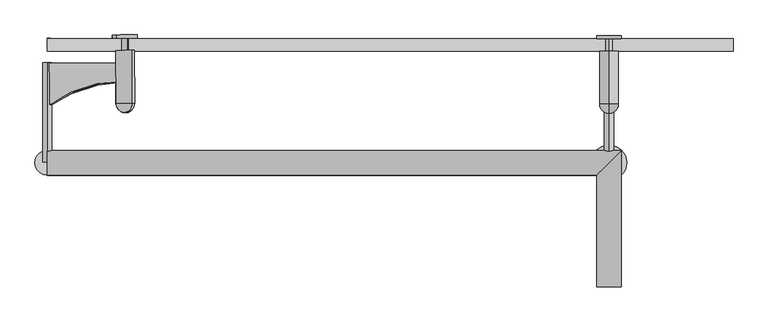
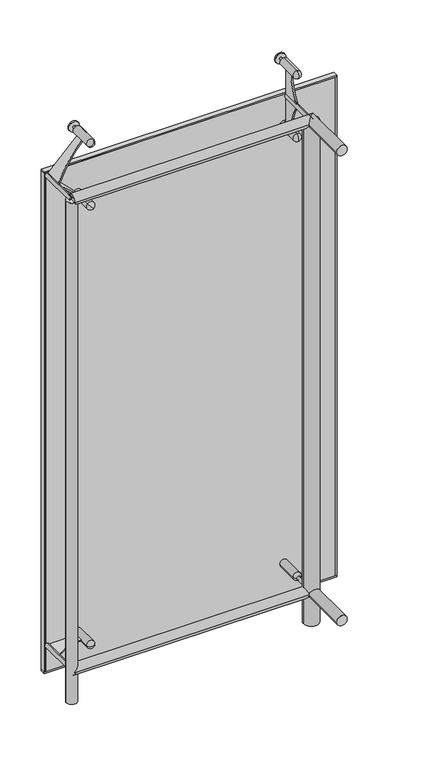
"""IFC4 building model written with IfcOpenShell, lengths in millimetres: plate geometry, FLATNING_TRYOUT_CORNER : FLATNING_TRYOUT_CORNER."""

from ifc_helpers import new_model, si_unit, point, frame, frame_2d, origin, origin_with_axes, place, context, project, spatial, polyline, circle_curve, ellipse_curve, trimmed, segment, composite_curve, outline, extrude, source, transform, mapped, element, save
from ifc_brep_helpers import plane_surface, cylinder_surface, revolved_surface, advanced_brep


def plate_5769654e(model_context):
    return source(origin(), model_context, "Body", "SolidModel", [
        advanced_brep(
        [(352.5, 0.0, 125.0), (347.5, 0.0, 125.0), (357.5, 0.0, 125.0), (367.5, -20.0, 125.0), (337.5, -20.0, 125.0), (337.5, -105.0, 125.0), (367.5, -105.0, 125.0), (357.5, -20.0, 125.0), (347.5, -20.0, 125.0), (352.5, -120.0, 125.0)],
        [
            (0, 1),
            (1, 2, circle_curve(frame((352.5, 0.0, 125.0), z_axis=(0.0, 1.0, 0.0), x_axis=(-1.0, 0.0, 0.0)), 5.0)),
            (2, 0),
            (2, 1, circle_curve(frame((352.5, 0.0, 125.0), z_axis=(0.0, 1.0, 0.0), x_axis=(-1.0, 0.0, 0.0)), 5.0)),
            (3, 4, circle_curve(frame((352.5, -20.0, 125.0), z_axis=(0.0, -1.0, 0.0), x_axis=(-1.0, 0.0, 0.0)), 15.0)),
            (4, 5),
            (5, 6, circle_curve(frame((352.5, -105.0, 125.0), z_axis=(0.0, 1.0, 0.0), x_axis=(-1.0, 0.0, 0.0)), 15.0)),
            (6, 3),
            (4, 3, circle_curve(frame((352.5, -20.0, 125.0), z_axis=(0.0, -1.0, 0.0), x_axis=(-1.0, 0.0, 0.0)), 15.0)),
            (6, 5, circle_curve(frame((352.5, -105.0, 125.0), z_axis=(0.0, 1.0, 0.0), x_axis=(-1.0, 0.0, 0.0)), 15.0)),
            (7, 8, circle_curve(frame((352.5, -20.0, 125.0), z_axis=(0.0, -1.0, 0.0), x_axis=(-1.0, 0.0, 0.0)), 5.0)),
            (8, 4),
            (3, 7),
            (8, 7, circle_curve(frame((352.5, -20.0, 125.0), z_axis=(0.0, -1.0, 0.0), x_axis=(-1.0, 0.0, 0.0)), 5.0)),
            (1, 8),
            (7, 2),
            (5, 9, circle_curve(frame((352.5, -105.0, 125.0), z_axis=(0.0, 0.0, 1.0), x_axis=(-1.0, 0.0, 0.0)), 15.0)),
            (9, 6, circle_curve(frame((352.5, -105.0, 125.0), z_axis=(0.0, 0.0, 1.0), x_axis=(1.0, 0.0, 0.0)), 15.0)),
        ],
        [
            plane_surface(frame((352.5, 0.0, 125.0), z_axis=(0.0, 1.0, 0.0), x_axis=(-1.0, 0.0, 0.0))),
            cylinder_surface(frame((352.5, 255.0, 125.0), z_axis=(0.0, 1.0, 0.0), x_axis=(-1.0, 0.0, 0.0)), 15.0),
            plane_surface(frame((352.5, -20.0, 125.0), z_axis=(0.0, 1.0, 0.0), x_axis=(-1.0, 0.0, 0.0))),
            cylinder_surface(frame((352.5, 255.0, 125.0), z_axis=(0.0, 1.0, 0.0), x_axis=(-1.0, 0.0, 0.0)), 5.0),
            revolved_surface(trimmed(ellipse_curve(frame((352.5, -105.0, 125.0), z_axis=(0.0, 0.0, -1.0), x_axis=(-1.0, 0.0, 0.0)), 15.0, 15.0), [point((352.5, -120.0, 125.0))], [point((337.5, -105.0, 125.0))], True, "CARTESIAN"), (352.5, 255.0, 125.0), (0.0, 1.0, 0.0)),
        ],
        [
            (0, [[1, 2, 3]]),
            (0, [[-3, 4, -1]]),
            (1, [[5, 6, 7, 8]]),
            (1, [[9, -8, 10, -6]]),
            (2, [[11, 12, -5, 13]]),
            (2, [[14, -13, -9, -12]]),
            (3, [[-2, 15, -11, 16]]),
            (3, [[-4, -16, -14, -15]]),
            (4, [[-7, 17, 18]]),
            (4, [[-10, -18, -17]]),
        ],
    ),
        extrude(outline(composite_curve([segment(polyline([(-40.0, 1875.0), (-70.0, 1875.0)]), True, "CONTINUOUS"), segment(trimmed(circle_curve(frame_2d((-298.4556665, 1870.7941867)), 228.4943772), [point((-70.0, 1875.0))], [point((-110.0, 2000.0))], True, "CARTESIAN"), True, "CONTINUOUS"), segment(polyline([(-110.0, 2000.0), (-40.0, 2000.0), (-40.0, 1875.0)]), True, "CONTINUOUS")], self_intersect=False)), frame((350.0, 0.0, 0.0), z_axis=(1.0, 0.0, 0.0), x_axis=(0.0, 1.0, 0.0)), (0.0, 0.0, 1.0), 5.0),
        advanced_brep(
        [(352.5, 0.0, 1875.0), (352.5, 0.0, 1880.0), (352.5, 0.0, 1870.0), (352.5, -20.0, 1860.0), (352.5, -20.0, 1890.0), (352.5, -105.0, 1890.0), (352.5, -105.0, 1860.0), (352.5, -20.0, 1870.0), (352.5, -20.0, 1880.0), (352.5, -120.0, 1875.0)],
        [
            (0, 1),
            (1, 2, circle_curve(frame((352.5, 0.0, 1875.0), z_axis=(0.0, 1.0, 0.0), x_axis=(0.0, 0.0, 1.0)), 5.0)),
            (2, 0),
            (2, 1, circle_curve(frame((352.5, 0.0, 1875.0), z_axis=(0.0, 1.0, 0.0), x_axis=(0.0, 0.0, 1.0)), 5.0)),
            (3, 4, circle_curve(frame((352.5, -20.0, 1875.0), z_axis=(0.0, -1.0, 0.0), x_axis=(0.0, 0.0, 1.0)), 15.0)),
            (4, 5),
            (5, 6, circle_curve(frame((352.5, -105.0, 1875.0), z_axis=(0.0, 1.0, 0.0), x_axis=(0.0, 0.0, 1.0)), 15.0)),
            (6, 3),
            (4, 3, circle_curve(frame((352.5, -20.0, 1875.0), z_axis=(0.0, -1.0, 0.0), x_axis=(0.0, 0.0, 1.0)), 15.0)),
            (6, 5, circle_curve(frame((352.5, -105.0, 1875.0), z_axis=(0.0, 1.0, 0.0), x_axis=(0.0, 0.0, 1.0)), 15.0)),
            (7, 8, circle_curve(frame((352.5, -20.0, 1875.0), z_axis=(0.0, -1.0, 0.0), x_axis=(0.0, 0.0, 1.0)), 5.0)),
            (8, 4),
            (3, 7),
            (8, 7, circle_curve(frame((352.5, -20.0, 1875.0), z_axis=(0.0, -1.0, 0.0), x_axis=(0.0, 0.0, 1.0)), 5.0)),
            (1, 8),
            (7, 2),
            (5, 9, circle_curve(frame((352.5, -105.0, 1875.0), z_axis=(1.0, 0.0, 0.0), x_axis=(0.0, 0.0, 1.0)), 15.0)),
            (9, 6, circle_curve(frame((352.5, -105.0, 1875.0), z_axis=(1.0, 0.0, 0.0), x_axis=(0.0, 0.0, -1.0)), 15.0)),
        ],
        [
            plane_surface(frame((352.5, 0.0, 1875.0), z_axis=(0.0, 1.0, 0.0), x_axis=(0.0, 0.0, 1.0))),
            cylinder_surface(frame((352.5, 255.0, 1875.0), z_axis=(0.0, 1.0, 0.0), x_axis=(0.0, 0.0, 1.0)), 15.0),
            plane_surface(frame((352.5, -20.0, 1875.0), z_axis=(0.0, 1.0, 0.0), x_axis=(0.0, 0.0, 1.0))),
            cylinder_surface(frame((352.5, 255.0, 1875.0), z_axis=(0.0, 1.0, 0.0), x_axis=(0.0, 0.0, 1.0)), 5.0),
            revolved_surface(trimmed(ellipse_curve(frame((352.5, -105.0, 1875.0), z_axis=(-1.0, 0.0, 0.0), x_axis=(0.0, 0.0, 1.0)), 15.0, 15.0), [point((352.5, -120.0, 1875.0))], [point((352.5, -105.0, 1890.0))], True, "CARTESIAN"), (352.5, 255.0, 1875.0), (0.0, 1.0, 0.0)),
        ],
        [
            (0, [[1, 2, 3]]),
            (0, [[-3, 4, -1]]),
            (1, [[5, 6, 7, 8]]),
            (1, [[9, -8, 10, -6]]),
            (2, [[11, 12, -5, 13]]),
            (2, [[14, -13, -9, -12]]),
            (3, [[-2, 15, -11, 16]]),
            (3, [[-4, -16, -14, -15]]),
            (4, [[-7, 17, 18]]),
            (4, [[-10, -18, -17]]),
        ],
    ),
        extrude(outline(composite_curve([segment(polyline([(-40.0, 2125.0), (-40.0, 2000.0), (-110.0, 2000.0)]), True, "CONTINUOUS"), segment(trimmed(circle_curve(frame_2d((-298.4556665, 2129.2058133)), 228.4943772), [point((-110.0, 2000.0))], [point((-70.0, 2125.0))], True, "CARTESIAN"), True, "CONTINUOUS"), segment(polyline([(-70.0, 2125.0), (-40.0, 2125.0)]), True, "CONTINUOUS")], self_intersect=False)), frame((350.0, 0.0, 0.0), z_axis=(1.0, 0.0, 0.0), x_axis=(0.0, 1.0, 0.0)), (0.0, 0.0, 1.0), 5.0),
        advanced_brep(
        [(352.5, 0.0, 2125.0), (352.5, 0.0, 2120.0), (352.5, 0.0, 2130.0), (352.5, -20.0, 2140.0), (352.5, -20.0, 2110.0), (352.5, -105.0, 2110.0), (352.5, -105.0, 2140.0), (352.5, -20.0, 2130.0), (352.5, -20.0, 2120.0), (352.5, -120.0, 2125.0)],
        [
            (0, 1),
            (1, 2, circle_curve(frame((352.5, 0.0, 2125.0), z_axis=(0.0, 1.0, 0.0), x_axis=(0.0, 0.0, -1.0)), 5.0)),
            (2, 0),
            (2, 1, circle_curve(frame((352.5, 0.0, 2125.0), z_axis=(0.0, 1.0, 0.0), x_axis=(0.0, 0.0, -1.0)), 5.0)),
            (3, 4, circle_curve(frame((352.5, -20.0, 2125.0), z_axis=(0.0, -1.0, 0.0), x_axis=(0.0, 0.0, -1.0)), 15.0)),
            (4, 5),
            (5, 6, circle_curve(frame((352.5, -105.0, 2125.0), z_axis=(0.0, 1.0, 0.0), x_axis=(0.0, 0.0, -1.0)), 15.0)),
            (6, 3),
            (4, 3, circle_curve(frame((352.5, -20.0, 2125.0), z_axis=(0.0, -1.0, 0.0), x_axis=(0.0, 0.0, -1.0)), 15.0)),
            (6, 5, circle_curve(frame((352.5, -105.0, 2125.0), z_axis=(0.0, 1.0, 0.0), x_axis=(0.0, 0.0, -1.0)), 15.0)),
            (7, 8, circle_curve(frame((352.5, -20.0, 2125.0), z_axis=(0.0, -1.0, 0.0), x_axis=(0.0, 0.0, -1.0)), 5.0)),
            (8, 4),
            (3, 7),
            (8, 7, circle_curve(frame((352.5, -20.0, 2125.0), z_axis=(0.0, -1.0, 0.0), x_axis=(0.0, 0.0, -1.0)), 5.0)),
            (1, 8),
            (7, 2),
            (5, 9, circle_curve(frame((352.5, -105.0, 2125.0), z_axis=(-1.0, 0.0, 0.0), x_axis=(0.0, 0.0, -1.0)), 15.0)),
            (9, 6, circle_curve(frame((352.5, -105.0, 2125.0), z_axis=(-1.0, 0.0, 0.0), x_axis=(0.0, 0.0, 1.0)), 15.0)),
        ],
        [
            plane_surface(frame((352.5, 0.0, 2125.0), z_axis=(0.0, 1.0, 0.0), x_axis=(0.0, 0.0, -1.0))),
            cylinder_surface(frame((352.5, 255.0, 2125.0), z_axis=(0.0, 1.0, 0.0), x_axis=(0.0, 0.0, -1.0)), 15.0),
            plane_surface(frame((352.5, -20.0, 2125.0), z_axis=(0.0, 1.0, 0.0), x_axis=(0.0, 0.0, -1.0))),
            cylinder_surface(frame((352.5, 255.0, 2125.0), z_axis=(0.0, 1.0, 0.0), x_axis=(0.0, 0.0, -1.0)), 5.0),
            revolved_surface(trimmed(ellipse_curve(frame((352.5, -105.0, 2125.0), z_axis=(1.0, 0.0, 0.0), x_axis=(0.0, 0.0, -1.0)), 15.0, 15.0), [point((352.5, -120.0, 2125.0))], [point((352.5, -105.0, 2110.0))], True, "CARTESIAN"), (352.5, 255.0, 2125.0), (0.0, 1.0, 0.0)),
        ],
        [
            (0, [[1, 2, 3]]),
            (0, [[-3, 4, -1]]),
            (1, [[5, 6, 7, 8]]),
            (1, [[9, -8, 10, -6]]),
            (2, [[11, 12, -5, 13]]),
            (2, [[14, -13, -9, -12]]),
            (3, [[-2, 15, -11, 16]]),
            (3, [[-4, -16, -14, -15]]),
            (4, [[-7, 17, 18]]),
            (4, [[-10, -18, -17]]),
        ],
    ),
        extrude(outline(composite_curve([segment(polyline([(-30.0, 0.0), (0.0, 0.0)]), True, "CONTINUOUS"), segment(trimmed(circle_curve(frame_2d((375.1980994, -8.2292431)), 375.2883348), [point((0.0, 0.0))], [point((40.0, -177.0))], True, "CARTESIAN"), True, "CONTINUOUS"), segment(polyline([(40.0, -177.0), (-30.0, -177.0), (-30.0, 0.0)]), True, "CONTINUOUS")], self_intersect=False)), frame((-428.7509403, -68.8348526, 1873.232233), z_axis=(0.7070974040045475, 0.0036415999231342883, 0.7071067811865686), x_axis=(0.005150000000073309, -0.9999867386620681, 0.0)), (0.0, 0.0, 1.0), 5.0),
        advanced_brep(
        [(-427.3436968, 1.1733231, 1875.0), (-430.8791838, 1.1551151, 1878.5355339), (-423.8082098, 1.1915311, 1871.4644661), (-416.6342358, -18.7717876, 1864.3933983), (-437.8471579, -18.8810356, 1885.6066017), (-437.4094079, -103.8799084, 1885.6066017), (-416.1964858, -103.7706604, 1864.3933983), (-423.7052098, -18.8082036, 1871.4644661), (-430.7761838, -18.8446196, 1878.5355339), (-426.7256968, -118.8250855, 1875.0)],
        [
            (0, 1),
            (1, 2, circle_curve(frame((-427.3436968, 1.1733231, 1875.0), z_axis=(-0.005150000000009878, 0.9999867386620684, 0.0), x_axis=(-0.7070974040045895, -0.0036415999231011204, 0.7071067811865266)), 5.0)),
            (2, 0),
            (2, 1, circle_curve(frame((-427.3436968, 1.1733231, 1875.0), z_axis=(-0.005150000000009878, 0.9999867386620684, 0.0), x_axis=(-0.7070974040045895, -0.0036415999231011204, 0.7071067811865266)), 5.0)),
            (3, 4, circle_curve(frame((-427.2406968, -18.8264116, 1875.0), z_axis=(0.005150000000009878, -0.9999867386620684, 0.0), x_axis=(-0.7070974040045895, -0.0036415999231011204, 0.7071067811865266)), 15.0)),
            (4, 5),
            (5, 6, circle_curve(frame((-426.8029468, -103.8252844, 1875.0), z_axis=(-0.005150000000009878, 0.9999867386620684, 0.0), x_axis=(-0.7070974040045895, -0.0036415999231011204, 0.7071067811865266)), 15.0)),
            (6, 3),
            (4, 3, circle_curve(frame((-427.2406968, -18.8264116, 1875.0), z_axis=(0.005150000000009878, -0.9999867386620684, 0.0), x_axis=(-0.7070974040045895, -0.0036415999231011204, 0.7071067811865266)), 15.0)),
            (6, 5, circle_curve(frame((-426.8029468, -103.8252844, 1875.0), z_axis=(-0.005150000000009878, 0.9999867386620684, 0.0), x_axis=(-0.7070974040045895, -0.0036415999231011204, 0.7071067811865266)), 15.0)),
            (7, 8, circle_curve(frame((-427.2406968, -18.8264116, 1875.0), z_axis=(0.005150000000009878, -0.9999867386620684, 0.0), x_axis=(-0.7070974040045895, -0.0036415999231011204, 0.7071067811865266)), 5.0)),
            (8, 4),
            (3, 7),
            (8, 7, circle_curve(frame((-427.2406968, -18.8264116, 1875.0), z_axis=(0.005150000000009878, -0.9999867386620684, 0.0), x_axis=(-0.7070974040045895, -0.0036415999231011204, 0.7071067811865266)), 5.0)),
            (1, 8),
            (7, 2),
            (5, 9, circle_curve(frame((-426.8029468, -103.8252844, 1875.0), z_axis=(0.7070974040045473, 0.003641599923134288, 0.7071067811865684), x_axis=(-0.7070974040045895, -0.0036415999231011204, 0.7071067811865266)), 15.0)),
            (9, 6, circle_curve(frame((-426.8029468, -103.8252844, 1875.0), z_axis=(0.707097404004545, 0.003641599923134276, 0.7071067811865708), x_axis=(0.7070974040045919, 0.003641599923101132, -0.7071067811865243)), 15.0)),
        ],
        [
            plane_surface(frame((-427.3436968, 1.1733231, 1875.0), z_axis=(-0.005150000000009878, 0.9999867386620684, 0.0), x_axis=(-0.7070974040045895, -0.0036415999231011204, 0.7071067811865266))),
            cylinder_surface(frame((-430.0731968, 531.1662946, 1875.0), z_axis=(-0.005150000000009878, 0.9999867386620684, 0.0), x_axis=(-0.7070974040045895, -0.0036415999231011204, 0.7071067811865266)), 15.0),
            plane_surface(frame((-427.2406968, -18.8264116, 1875.0), z_axis=(-0.005150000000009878, 0.9999867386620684, 0.0), x_axis=(-0.7070974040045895, -0.0036415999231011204, 0.7071067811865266))),
            cylinder_surface(frame((-430.0731968, 531.1662946, 1875.0), z_axis=(-0.005150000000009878, 0.9999867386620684, 0.0), x_axis=(-0.7070974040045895, -0.0036415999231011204, 0.7071067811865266)), 5.0),
            revolved_surface(trimmed(ellipse_curve(frame((-426.8029468, -103.8252844, 1875.0), z_axis=(-0.7070974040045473, -0.003641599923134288, -0.7071067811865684), x_axis=(-0.7070974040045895, -0.0036415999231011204, 0.7071067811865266)), 15.0, 15.0), [point((-426.7256968, -118.8250855, 1875.0))], [point((-437.4094079, -103.8799084, 1885.6066017))], True, "CARTESIAN"), (-430.0731968, 531.1662946, 1875.0), (-0.005150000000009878, 0.9999867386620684, 0.0)),
        ],
        [
            (0, [[1, 2, 3]]),
            (0, [[-3, 4, -1]]),
            (1, [[5, 6, 7, 8]]),
            (1, [[9, -8, 10, -6]]),
            (2, [[11, 12, -5, 13]]),
            (2, [[14, -13, -9, -12]]),
            (3, [[-2, 15, -11, 16]]),
            (3, [[-4, -16, -14, -15]]),
            (4, [[-7, 17, 18]]),
            (4, [[-10, -18, -17]]),
        ],
    ),
        extrude(outline(composite_curve([segment(polyline([(-30.0, 0.0), (0.0, 0.0)]), True, "CONTINUOUS"), segment(trimmed(circle_curve(frame_2d((375.1980994, -8.2292431)), 375.2883348), [point((0.0, 0.0))], [point((40.0, -177.0))], True, "CARTESIAN"), True, "CONTINUOUS"), segment(polyline([(40.0, -177.0), (-30.0, -177.0), (-30.0, 0.0)]), True, "CONTINUOUS")], self_intersect=False)), frame((-425.2127575, -68.8166307, 2123.3901333), z_axis=(-0.7070974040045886, -0.003641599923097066, 0.7071067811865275), x_axis=(0.005150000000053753, -0.9999867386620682, 0.0)), (0.0, 0.0, 1.0), 5.0),
        advanced_brep(
        [(-427.341001, 1.173337, 2125.1579003), (-430.876488, 1.155129, 2121.6223664), (-423.805514, 1.191545, 2128.6934342), (-416.63154, -18.7717738, 2135.764502), (-437.8444621, -18.8810218, 2114.5512986), (-437.4067121, -103.8798945, 2114.5512986), (-416.19379, -103.7706466, 2135.764502), (-423.702514, -18.8081898, 2128.6934342), (-430.773488, -18.8446058, 2121.6223664), (-426.723001, -118.8250716, 2125.1579003)],
        [
            (0, 1),
            (1, 2, circle_curve(frame((-427.341001, 1.173337, 2125.1579003), z_axis=(-0.005149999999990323, 0.9999867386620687, 0.0), x_axis=(-0.7070974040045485, -0.0036415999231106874, -0.7071067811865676)), 5.0)),
            (2, 0),
            (2, 1, circle_curve(frame((-427.341001, 1.173337, 2125.1579003), z_axis=(-0.005149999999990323, 0.9999867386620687, 0.0), x_axis=(-0.7070974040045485, -0.0036415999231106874, -0.7071067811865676)), 5.0)),
            (3, 4, circle_curve(frame((-427.238001, -18.8263978, 2125.1579003), z_axis=(0.005149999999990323, -0.9999867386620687, 0.0), x_axis=(-0.7070974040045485, -0.0036415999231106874, -0.7071067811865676)), 15.0)),
            (4, 5),
            (5, 6, circle_curve(frame((-426.800251, -103.8252705, 2125.1579003), z_axis=(-0.005149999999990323, 0.9999867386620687, 0.0), x_axis=(-0.7070974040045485, -0.0036415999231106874, -0.7071067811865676)), 15.0)),
            (6, 3),
            (4, 3, circle_curve(frame((-427.238001, -18.8263978, 2125.1579003), z_axis=(0.005149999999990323, -0.9999867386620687, 0.0), x_axis=(-0.7070974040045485, -0.0036415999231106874, -0.7071067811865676)), 15.0)),
            (6, 5, circle_curve(frame((-426.800251, -103.8252705, 2125.1579003), z_axis=(-0.005149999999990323, 0.9999867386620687, 0.0), x_axis=(-0.7070974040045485, -0.0036415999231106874, -0.7071067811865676)), 15.0)),
            (7, 8, circle_curve(frame((-427.238001, -18.8263978, 2125.1579003), z_axis=(0.005149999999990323, -0.9999867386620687, 0.0), x_axis=(-0.7070974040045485, -0.0036415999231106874, -0.7071067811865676)), 5.0)),
            (8, 4),
            (3, 7),
            (8, 7, circle_curve(frame((-427.238001, -18.8263978, 2125.1579003), z_axis=(0.005149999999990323, -0.9999867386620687, 0.0), x_axis=(-0.7070974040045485, -0.0036415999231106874, -0.7071067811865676)), 5.0)),
            (1, 8),
            (7, 2),
            (5, 9, circle_curve(frame((-426.800251, -103.8252705, 2125.1579003), z_axis=(-0.7070974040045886, -0.003641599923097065, 0.7071067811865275), x_axis=(-0.7070974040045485, -0.0036415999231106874, -0.7071067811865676)), 15.0)),
            (9, 6, circle_curve(frame((-426.800251, -103.8252705, 2125.1579003), z_axis=(-0.707097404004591, -0.0036415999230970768, 0.7071067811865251), x_axis=(0.7070974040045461, 0.0036415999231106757, 0.7071067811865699)), 15.0)),
        ],
        [
            plane_surface(frame((-427.341001, 1.173337, 2125.1579003), z_axis=(-0.005149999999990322, 0.9999867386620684, 0.0), x_axis=(-0.7070974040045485, -0.0036415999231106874, -0.7071067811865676))),
            cylinder_surface(frame((-430.070501, 531.1663085, 2125.1579003), z_axis=(-0.005149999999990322, 0.9999867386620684, 0.0), x_axis=(-0.7070974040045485, -0.0036415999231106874, -0.7071067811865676)), 15.0),
            plane_surface(frame((-427.238001, -18.8263978, 2125.1579003), z_axis=(-0.005149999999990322, 0.9999867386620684, 0.0), x_axis=(-0.7070974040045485, -0.0036415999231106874, -0.7071067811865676))),
            cylinder_surface(frame((-430.070501, 531.1663085, 2125.1579003), z_axis=(-0.005149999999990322, 0.9999867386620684, 0.0), x_axis=(-0.7070974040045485, -0.0036415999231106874, -0.7071067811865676)), 5.0),
            revolved_surface(trimmed(ellipse_curve(frame((-426.800251, -103.8252705, 2125.1579003), z_axis=(0.7070974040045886, 0.003641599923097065, -0.7071067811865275), x_axis=(-0.7070974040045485, -0.0036415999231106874, -0.7071067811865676)), 15.0, 15.0), [point((-426.723001, -118.8250716, 2125.1579003))], [point((-437.4067121, -103.8798945, 2114.5512986))], True, "CARTESIAN"), (-430.070501, 531.1663085, 2125.1579003), (-0.005149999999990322, 0.9999867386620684, 0.0)),
        ],
        [
            (0, [[1, 2, 3]]),
            (0, [[-3, 4, -1]]),
            (1, [[5, 6, 7, 8]]),
            (1, [[9, -8, 10, -6]]),
            (2, [[11, 12, -5, 13]]),
            (2, [[14, -13, -9, -12]]),
            (3, [[-2, 15, -11, 16]]),
            (3, [[-4, -16, -14, -15]]),
            (4, [[-7, 17, 18]]),
            (4, [[-10, -18, -17]]),
        ],
    ),
        extrude(outline(composite_curve([segment(polyline([(-427.2956577, -38.8269599), (-427.1411577, -68.8265621)]), True, "CONTINUOUS"), segment(trimmed(circle_curve(frame_2d((-421.7588536, -297.257539)), 228.4943772), [point((-427.1411577, -68.8265621))], [point((-551.9335001, -109.4697816))], True, "CARTESIAN"), True, "CONTINUOUS"), segment(polyline([(-551.9335001, -109.4697816), (-552.2940001, -39.4707099), (-427.2956577, -38.8269599)]), True, "CONTINUOUS")], self_intersect=False)), frame((0.0, 0.0, 122.5), z_axis=(0.0, 0.0, 1.0), x_axis=(1.0, 0.0, 0.0)), (0.0, 0.0, 1.0), 5.0),
        advanced_brep(
        [(-427.5016577, 1.1725096, 125.0), (-432.5015914, 1.1467596, 125.0), (-422.501724, 1.1982596, 125.0), (-412.3988566, -18.7499752, 125.0), (-442.3984588, -18.9044752, 125.0), (-441.9607088, -103.9033479, 125.0), (-411.9611066, -103.7488479, 125.0), (-422.398724, -18.8014752, 125.0), (-432.3985914, -18.8529752, 125.0), (-426.8836577, -118.825899, 125.0)],
        [
            (0, 1),
            (1, 2, circle_curve(frame((-427.5016577, 1.1725096, 125.0), z_axis=(-0.0051500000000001, 0.9999867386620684, 0.0), x_axis=(-0.9999867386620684, -0.0051500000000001, 0.0)), 5.0)),
            (2, 0),
            (2, 1, circle_curve(frame((-427.5016577, 1.1725096, 125.0), z_axis=(-0.0051500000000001, 0.9999867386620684, 0.0), x_axis=(-0.9999867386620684, -0.0051500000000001, 0.0)), 5.0)),
            (3, 4, circle_curve(frame((-427.3986577, -18.8272252, 125.0), z_axis=(0.0051500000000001, -0.9999867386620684, 0.0), x_axis=(-0.9999867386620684, -0.0051500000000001, 0.0)), 15.0)),
            (4, 5),
            (5, 6, circle_curve(frame((-426.9609077, -103.8260979, 125.0), z_axis=(-0.0051500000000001, 0.9999867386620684, 0.0), x_axis=(-0.9999867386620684, -0.0051500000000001, 0.0)), 15.0)),
            (6, 3),
            (4, 3, circle_curve(frame((-427.3986577, -18.8272252, 125.0), z_axis=(0.0051500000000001, -0.9999867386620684, 0.0), x_axis=(-0.9999867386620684, -0.0051500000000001, 0.0)), 15.0)),
            (6, 5, circle_curve(frame((-426.9609077, -103.8260979, 125.0), z_axis=(-0.0051500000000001, 0.9999867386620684, 0.0), x_axis=(-0.9999867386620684, -0.0051500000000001, 0.0)), 15.0)),
            (7, 8, circle_curve(frame((-427.3986577, -18.8272252, 125.0), z_axis=(0.0051500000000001, -0.9999867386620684, 0.0), x_axis=(-0.9999867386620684, -0.0051500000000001, 0.0)), 5.0)),
            (8, 4),
            (3, 7),
            (8, 7, circle_curve(frame((-427.3986577, -18.8272252, 125.0), z_axis=(0.0051500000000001, -0.9999867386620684, 0.0), x_axis=(-0.9999867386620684, -0.0051500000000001, 0.0)), 5.0)),
            (1, 8),
            (7, 2),
            (5, 9, circle_curve(frame((-426.9609077, -103.8260979, 125.0), z_axis=(0.0, 0.0, 1.0), x_axis=(-0.9999867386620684, -0.0051500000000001, 0.0)), 15.0)),
            (9, 6, circle_curve(frame((-426.9609077, -103.8260979, 125.0), z_axis=(0.0, 0.0, 1.0), x_axis=(0.9999867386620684, 0.0051500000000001, 0.0)), 15.0)),
        ],
        [
            plane_surface(frame((-427.5016577, 1.1725096, 125.0), z_axis=(-0.0051500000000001, 0.9999867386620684, 0.0), x_axis=(-0.9999867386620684, -0.0051500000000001, 0.0))),
            cylinder_surface(frame((-428.8149077, 256.169128, 125.0), z_axis=(-0.0051500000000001, 0.9999867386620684, 0.0), x_axis=(-0.9999867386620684, -0.0051500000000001, 0.0)), 15.0),
            plane_surface(frame((-427.3986577, -18.8272252, 125.0), z_axis=(-0.0051500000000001, 0.9999867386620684, 0.0), x_axis=(-0.9999867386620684, -0.0051500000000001, 0.0))),
            cylinder_surface(frame((-428.8149077, 256.169128, 125.0), z_axis=(-0.0051500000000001, 0.9999867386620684, 0.0), x_axis=(-0.9999867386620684, -0.0051500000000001, 0.0)), 5.0),
            revolved_surface(trimmed(ellipse_curve(frame((-426.9609077, -103.8260979, 125.0), z_axis=(0.0, 0.0, -1.0), x_axis=(-0.9999867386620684, -0.0051500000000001, 0.0)), 15.0, 15.0), [point((-426.8836577, -118.825899, 125.0))], [point((-441.9607088, -103.9033479, 125.0))], True, "CARTESIAN"), (-428.8149077, 256.169128, 125.0), (-0.0051500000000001, 0.9999867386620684, 0.0)),
        ],
        [
            (0, [[1, 2, 3]]),
            (0, [[-3, 4, -1]]),
            (1, [[5, 6, 7, 8]]),
            (1, [[9, -8, 10, -6]]),
            (2, [[11, 12, -5, 13]]),
            (2, [[14, -13, -9, -12]]),
            (3, [[-2, 15, -11, 16]]),
            (3, [[-4, -16, -14, -15]]),
            (4, [[-7, 17, 18]]),
            (4, [[-10, -18, -17]]),
        ],
    ),
        extrude(outline(composite_curve([segment(trimmed(circle_curve(frame_2d((125.0, 352.5)), 20.0), [point((125.0, 372.5))], [point((125.0, 332.5))], False, "CARTESIAN"), True, "CONTINUOUS"), segment(trimmed(circle_curve(frame_2d((125.0, 352.5)), 20.0), [point((125.0, 332.5))], [point((125.0, 372.5))], False, "CARTESIAN"), True, "CONTINUOUS")], self_intersect=False)), frame((0.0, 0.0, 0.0), z_axis=(0.0, 1.0, 0.0), x_axis=(0.0, 0.0, 1.0)), (0.0, 0.0, 1.0), 5.0),
        extrude(outline(composite_curve([segment(trimmed(circle_curve(frame_2d((1875.0, 352.5)), 20.0), [point((1875.0, 372.5))], [point((1875.0, 332.5))], False, "CARTESIAN"), True, "CONTINUOUS"), segment(trimmed(circle_curve(frame_2d((1875.0, 352.5)), 20.0), [point((1875.0, 332.5))], [point((1875.0, 372.5))], False, "CARTESIAN"), True, "CONTINUOUS")], self_intersect=False)), frame((0.0, 0.0, 0.0), z_axis=(0.0, 1.0, 0.0), x_axis=(0.0, 0.0, 1.0)), (0.0, 0.0, 1.0), 5.0),
        extrude(outline(composite_curve([segment(trimmed(circle_curve(frame_2d((2125.0, 352.5)), 20.0), [point((2125.0, 372.5))], [point((2125.0, 332.5))], False, "CARTESIAN"), True, "CONTINUOUS"), segment(trimmed(circle_curve(frame_2d((2125.0, 352.5)), 20.0), [point((2125.0, 332.5))], [point((2125.0, 372.5))], False, "CARTESIAN"), True, "CONTINUOUS")], self_intersect=False)), frame((0.0, 0.0, 0.0), z_axis=(0.0, 1.0, 0.0), x_axis=(0.0, 0.0, 1.0)), (0.0, 0.0, 1.0), 5.0),
        advanced_brep(
        [(-552.5, -220.0, 2000.0), (-552.5, -180.0, 2000.0), (332.5, -220.0, 2000.0), (372.5, -180.0, 2000.0), (332.5, -400.0, 2000.0), (372.5, -400.0, 2000.0)],
        [
            (0, 1, circle_curve(frame((-552.5, -200.0, 2000.0), z_axis=(-1.0, 0.0, 0.0), x_axis=(0.0, 1.0, 0.0)), 20.0)),
            (1, 0, circle_curve(frame((-552.5, -200.0, 2000.0), z_axis=(-1.0, 0.0, 0.0), x_axis=(0.0, 1.0, 0.0)), 20.0)),
            (0, 2),
            (2, 3, ellipse_curve(frame((352.5, -200.0, 2000.0), z_axis=(-0.7071067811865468, 0.7071067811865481, 0.0), x_axis=(-0.7071067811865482, -0.7071067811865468, 0.0)), 28.2842712, 20.0)),
            (3, 1),
            (3, 2, ellipse_curve(frame((352.5, -200.0, 2000.0), z_axis=(-0.7071067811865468, 0.7071067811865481, 0.0), x_axis=(-0.7071067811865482, -0.7071067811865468, 0.0)), 28.2842712, 20.0)),
            (4, 5, circle_curve(frame((352.5, -400.0, 2000.0), z_axis=(0.0, -1.0, 0.0), x_axis=(1.0, 0.0, 0.0)), 20.0)),
            (5, 4, circle_curve(frame((352.5, -400.0, 2000.0), z_axis=(0.0, -1.0, 0.0), x_axis=(1.0, 0.0, 0.0)), 20.0)),
            (2, 4),
            (5, 3),
        ],
        [
            plane_surface(frame((-552.5, -200.0, 0.0), z_axis=(-1.0, 0.0, 0.0), x_axis=(0.0, 0.0, 1.0))),
            cylinder_surface(frame((-552.5, -200.0, 2000.0), z_axis=(-1.0, 0.0, 0.0), x_axis=(0.0, 1.0, 0.0)), 20.0),
            plane_surface(frame((352.5, -400.0, 0.0), z_axis=(0.0, -1.0, 0.0), x_axis=(0.0, 0.0, 1.0))),
            cylinder_surface(frame((352.5, -200.0, 2000.0), z_axis=(0.0, 1.0, 0.0), x_axis=(1.0, 0.0, 0.0)), 20.0),
        ],
        [
            (0, [[1, 2]]),
            (1, [[-1, 3, 4, 5]]),
            (1, [[-2, -5, 6, -3]]),
            (2, [[7, 8]]),
            (3, [[-4, 9, -8, 10]]),
            (3, [[-6, -10, -7, -9]]),
        ],
    ),
        advanced_brep(
        [(-552.5, -220.0, 125.0), (-552.5, -180.0, 125.0), (332.5, -220.0, 125.0), (372.5, -180.0, 125.0), (332.5, -400.0, 125.0), (372.5, -400.0, 125.0)],
        [
            (0, 1, circle_curve(frame((-552.5, -200.0, 125.0), z_axis=(-1.0, 0.0, 0.0), x_axis=(0.0, 1.0, 0.0)), 20.0)),
            (1, 0, circle_curve(frame((-552.5, -200.0, 125.0), z_axis=(-1.0, 0.0, 0.0), x_axis=(0.0, 1.0, 0.0)), 20.0)),
            (0, 2),
            (2, 3, ellipse_curve(frame((352.5, -200.0, 125.0), z_axis=(-0.7071067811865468, 0.7071067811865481, 0.0), x_axis=(-0.7071067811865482, -0.7071067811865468, 0.0)), 28.2842712, 20.0)),
            (3, 1),
            (3, 2, ellipse_curve(frame((352.5, -200.0, 125.0), z_axis=(-0.7071067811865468, 0.7071067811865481, 0.0), x_axis=(-0.7071067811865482, -0.7071067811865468, 0.0)), 28.2842712, 20.0)),
            (4, 5, circle_curve(frame((352.5, -400.0, 125.0), z_axis=(0.0, -1.0, 0.0), x_axis=(1.0, 0.0, 0.0)), 20.0)),
            (5, 4, circle_curve(frame((352.5, -400.0, 125.0), z_axis=(0.0, -1.0, 0.0), x_axis=(1.0, 0.0, 0.0)), 20.0)),
            (2, 4),
            (5, 3),
        ],
        [
            plane_surface(frame((-552.5, -200.0, 0.0), z_axis=(-1.0, 0.0, 0.0), x_axis=(0.0, 0.0, 1.0))),
            cylinder_surface(frame((-552.5, -200.0, 125.0), z_axis=(-1.0, 0.0, 0.0), x_axis=(0.0, 1.0, 0.0)), 20.0),
            plane_surface(frame((352.5, -400.0, 0.0), z_axis=(0.0, -1.0, 0.0), x_axis=(0.0, 0.0, 1.0))),
            cylinder_surface(frame((352.5, -200.0, 125.0), z_axis=(0.0, 1.0, 0.0), x_axis=(1.0, 0.0, 0.0)), 20.0),
        ],
        [
            (0, [[1, 2]]),
            (1, [[-1, 3, 4, 5]]),
            (1, [[-2, -5, 6, -3]]),
            (2, [[7, 8]]),
            (3, [[-4, 9, -8, 10]]),
            (3, [[-6, -10, -7, -9]]),
        ],
    ),
        extrude(outline(polyline([(552.5, -20.0), (-552.5, -20.0), (-552.5, 0.0), (552.5, 0.0), (552.5, -20.0)])), origin_with_axes(), (0.0, 0.0, 1.0), 5.0),
        extrude(outline(polyline([(552.5, -20.0), (-552.5, -20.0), (-552.5, 0.0), (552.5, 0.0), (552.5, -20.0)])), frame((0.0, 0.0, 1995.0), z_axis=(0.0, 0.0, 1.0), x_axis=(1.0, 0.0, 0.0)), (0.0, 0.0, 1.0), 5.0),
        extrude(outline(polyline([(547.5, 0.0781286), (552.5, 0.0781286), (552.5, -20.0), (547.5, -20.0), (547.5, 0.0781286)])), frame((0.0, 0.0, 5.0), z_axis=(0.0, 0.0, 1.0), x_axis=(1.0, 0.0, 0.0)), (0.0, 0.0, 1.0), 1990.0),
        extrude(outline(polyline([(-547.5, 0.5287596), (-547.5, -20.0), (-552.5000001, -20.0), (-552.5000001, 0.5287596), (-547.5, 0.5287596)])), frame((0.0, 0.0, 5.0), z_axis=(0.0, 0.0, 1.0), x_axis=(1.0, 0.0, 0.0)), (0.0, 0.0, 1.0), 1990.0),
        extrude(outline(polyline([(547.5, -20.0), (-547.5, -20.0), (-547.5, 0.0), (547.5, 0.0), (547.5, -20.0)])), frame((0.0, 0.0, 5.0), z_axis=(0.0, 0.0, 1.0), x_axis=(1.0, 0.0, 0.0)), (0.0, 0.0, 1.0), 1990.0),
        extrude(outline(composite_curve([segment(trimmed(circle_curve(frame_2d((2000.0, -552.5)), 7.5), [point((1992.5, -552.5))], [point((2007.5, -552.5))], False, "CARTESIAN"), True, "CONTINUOUS"), segment(trimmed(circle_curve(frame_2d((2000.0, -552.5)), 7.5), [point((2007.5, -552.5))], [point((1992.5, -552.5))], False, "CARTESIAN"), True, "CONTINUOUS")], self_intersect=False)), frame((0.0, -198.6528093, 0.0), z_axis=(0.0, 1.0, 0.0), x_axis=(0.0, 0.0, 1.0)), (0.0, 0.0, 1.0), 160.0),
        extrude(outline(composite_curve([segment(trimmed(circle_curve(frame_2d((2000.0, 352.5)), 7.5), [point((1992.5, 352.5))], [point((2007.5, 352.5))], False, "CARTESIAN"), True, "CONTINUOUS"), segment(trimmed(circle_curve(frame_2d((2000.0, 352.5)), 7.5), [point((2007.5, 352.5))], [point((1992.5, 352.5))], False, "CARTESIAN"), True, "CONTINUOUS")], self_intersect=False)), frame((0.0, -199.2242369, 0.0), z_axis=(0.0, 1.0, 0.0), x_axis=(0.0, 0.0, 1.0)), (0.0, 0.0, 1.0), 160.0),
        extrude(outline(composite_curve([segment(trimmed(circle_curve(frame_2d((0.0, -20.0)), 20.0), [point((-1e-07, -40.0))], [point((0.0, 0.0))], False, "CARTESIAN"), True, "CONTINUOUS"), segment(trimmed(circle_curve(frame_2d((0.0, -20.0)), 20.0), [point((0.0, 0.0))], [point((-1e-07, -40.0))], False, "CARTESIAN"), True, "CONTINUOUS")], self_intersect=False)), frame((-441.616266, 1.0998184, 1889.1421356), z_axis=(-0.005150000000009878, 0.9999867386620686, 0.0), x_axis=(-0.7070974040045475, -0.0036415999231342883, -0.7071067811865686)), (0.0, 0.0, 1.0), 5.0),
        extrude(outline(composite_curve([segment(trimmed(circle_curve(frame_2d((-176.7766953, 156.7766953)), 20.0), [point((-176.7766954, 136.7766953))], [point((-176.7766953, 176.7766953))], False, "CARTESIAN"), True, "CONTINUOUS"), segment(trimmed(circle_curve(frame_2d((-176.7766953, 156.7766953)), 20.0), [point((-176.7766953, 176.7766953))], [point((-176.7766954, 136.7766953))], False, "CARTESIAN"), True, "CONTINUOUS")], self_intersect=False)), frame((-441.616266, 1.0998184, 1889.1421356), z_axis=(-0.005150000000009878, 0.9999867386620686, 0.0), x_axis=(-0.7070974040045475, -0.0036415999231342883, -0.7071067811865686)), (0.0, 0.0, 1.0), 5.0),
        extrude(outline(composite_curve([segment(trimmed(circle_curve(frame_2d((125.0, 352.5)), 7.5), [point((117.5, 352.5))], [point((132.5, 352.5))], False, "CARTESIAN"), True, "CONTINUOUS"), segment(trimmed(circle_curve(frame_2d((125.0, 352.5)), 7.5), [point((132.5, 352.5))], [point((117.5, 352.5))], False, "CARTESIAN"), True, "CONTINUOUS")], self_intersect=False)), frame((0.0, -199.2589491, 0.0), z_axis=(0.0, 1.0, 0.0), x_axis=(0.0, 0.0, 1.0)), (0.0, 0.0, 1.0), 160.0),
        extrude(outline(composite_curve([segment(trimmed(circle_curve(frame_2d((125.0, -552.5)), 7.5), [point((117.5, -552.5))], [point((132.5, -552.5))], False, "CARTESIAN"), True, "CONTINUOUS"), segment(trimmed(circle_curve(frame_2d((125.0, -552.5)), 7.5), [point((132.5, -552.5))], [point((117.5, -552.5))], False, "CARTESIAN"), True, "CONTINUOUS")], self_intersect=False)), frame((0.0, -198.8047197, 0.0), z_axis=(0.0, 1.0, 0.0), x_axis=(0.0, 0.0, 1.0)), (0.0, 0.0, 1.0), 160.0),
        extrude(outline(composite_curve([segment(trimmed(circle_curve(frame_2d((0.0, -20.0)), 20.0), [point((0.0, -40.0))], [point((0.0, 0.0))], False, "CARTESIAN"), True, "CONTINUOUS"), segment(trimmed(circle_curve(frame_2d((0.0, -20.0)), 20.0), [point((0.0, 0.0))], [point((0.0, -40.0))], False, "CARTESIAN"), True, "CONTINUOUS")], self_intersect=False)), frame((-447.5020557, 1.0695062, 125.0), z_axis=(-0.0051500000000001, 0.9999867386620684, 0.0), x_axis=(0.0, 0.0, -1.0)), (0.0, 0.0, 1.0), 5.0),
        extrude(outline(composite_curve([segment(trimmed(circle_curve(frame_2d((352.5, -200.0)), 28.3), [point((324.2, -200.0))], [point((380.8, -200.0))], False, "CARTESIAN"), True, "CONTINUOUS"), segment(trimmed(circle_curve(frame_2d((352.5, -200.0)), 28.3), [point((380.8, -200.0))], [point((324.2, -200.0))], False, "CARTESIAN"), True, "CONTINUOUS")], self_intersect=False)), origin_with_axes(), (0.0, 0.0, 1.0), 2000.0),
        extrude(outline(composite_curve([segment(trimmed(circle_curve(frame_2d((-552.5, -200.0)), 20.0), [point((-572.5, -200.0))], [point((-532.5, -200.0))], False, "CARTESIAN"), True, "CONTINUOUS"), segment(trimmed(circle_curve(frame_2d((-552.5, -200.0)), 20.0), [point((-532.5, -200.0))], [point((-572.5, -200.0))], False, "CARTESIAN"), True, "CONTINUOUS")], self_intersect=False)), origin_with_axes(), (0.0, 0.0, 1.0), 2000.0),
    ])


if __name__ == "__main__":
    model = new_model("IFC4")
    model_context = context("Model", 3, world=origin())
    ifc_project = project(units=[si_unit("LENGTHUNIT", "METRE", prefix="MILLI")], contexts=[model_context])
    site = spatial("IfcSite", under=ifc_project)
    building = spatial("IfcBuilding", under=site)
    placement = place(None, origin())
    plate_shape = plate_5769654e(model_context)
    element("IfcPlate", 1, ObjectType="FLATNING_TRYOUT_CORNER : FLATNING_TRYOUT_CORNER", at=placement, inside=building, context=model_context, shape_type="MappedRepresentation", body=[
        mapped(plate_shape, transform((0.0, 0.0, 0.0), x_axis=(1.0, 0.0, 0.0), y_axis=(0.0, 1.0, 0.0), z_axis=(0.0, 0.0, 1.0))),
    ])
    save(model, "model.ifc")
